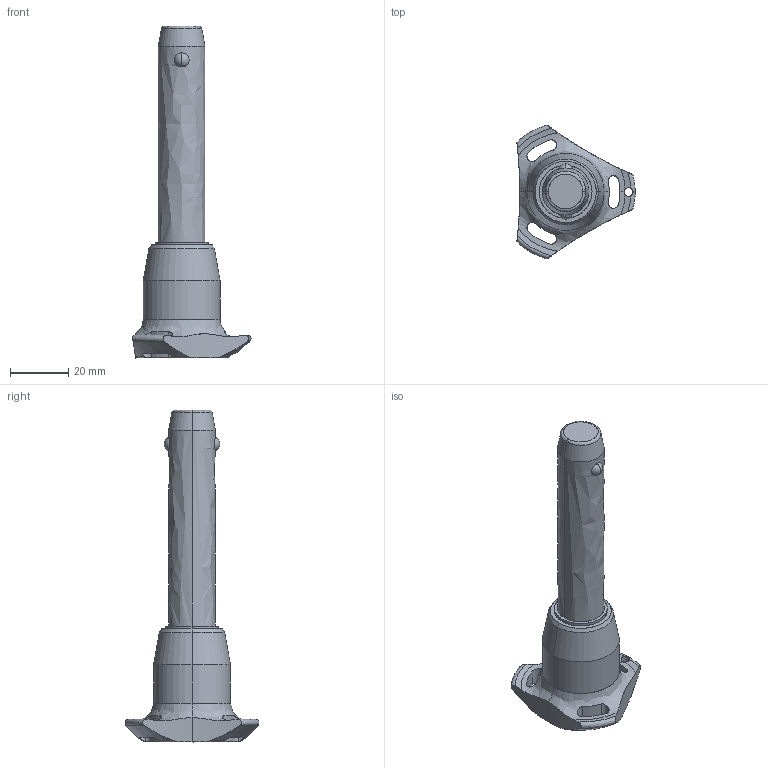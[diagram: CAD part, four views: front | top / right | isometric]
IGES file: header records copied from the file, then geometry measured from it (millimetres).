
Start section: SolidWorks IGES file using analytic representation for surfaces
Global section: file name: C:\Users\ianosborn\Desktop\QR1734_v2\QR1734_v2_20251113_IGES\QR1734.M16-060-S.igs; native system: SolidWorks 2019; preprocessor: SolidWorks 2019; author: IanOsborn; date: 251112.143616; units: millimetre
Bounding box: 40.5 x 45.88 x 113.7 mm (x, y, z)
Surface area: 9674.5 mm2 (no closed solid volume)
Topology: 0 solids, 0 shells, 65 faces, 1379 edges, 1375 vertices
Faces by surface type: revolution 50, bspline 15
